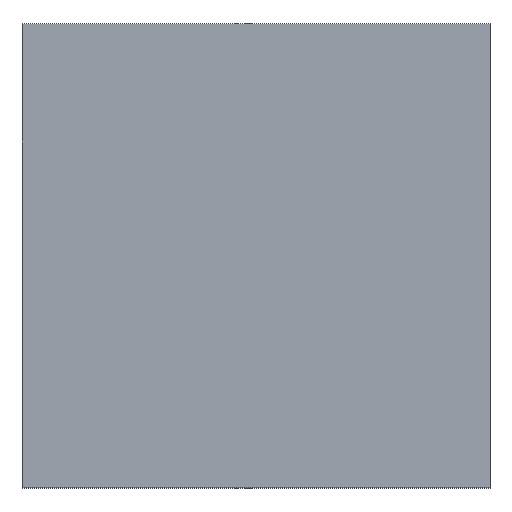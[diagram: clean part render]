
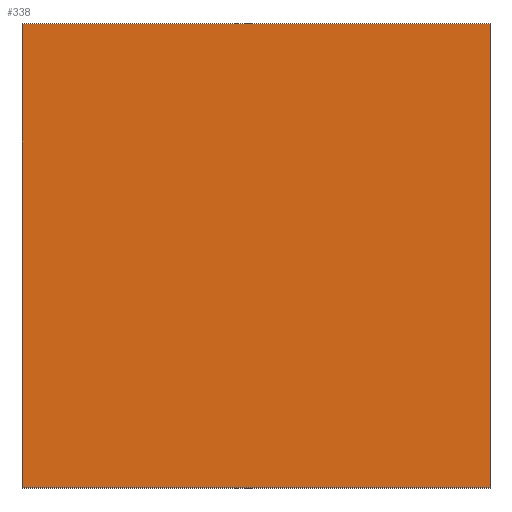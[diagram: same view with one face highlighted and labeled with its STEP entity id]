
A CAD part, top view. The second image highlights one B-rep face of the part: STEP entity #338.
In plain terms, the highlighted planar face has unit normal (0, 0, 1).
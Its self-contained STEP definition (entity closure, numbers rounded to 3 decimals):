
#24 = VERTEX_POINT('',#25);
#25 = CARTESIAN_POINT('',(-25.4,1.45,24.75));
#32 = PLANE('',#33);
#33 = AXIS2_PLACEMENT_3D('',#34,#35,#36);
#34 = CARTESIAN_POINT('',(-25.4,1.45,21.14));
#35 = DIRECTION('',(1.,0.,-0.));
#36 = DIRECTION('',(0.,0.,1.));
#44 = PLANE('',#45);
#45 = AXIS2_PLACEMENT_3D('',#46,#47,#48);
#46 = CARTESIAN_POINT('',(-25.4,1.45,21.14));
#47 = DIRECTION('',(-0.,1.,0.));
#48 = DIRECTION('',(0.,0.,1.));
#85 = VERTEX_POINT('',#86);
#86 = CARTESIAN_POINT('',(-25.4,5.7,24.75));
#100 = PLANE('',#101);
#101 = AXIS2_PLACEMENT_3D('',#102,#103,#104);
#102 = CARTESIAN_POINT('',(-25.4,5.7,21.14));
#103 = DIRECTION('',(-0.,1.,0.));
#104 = DIRECTION('',(0.,0.,1.));
#112 = EDGE_CURVE('',#24,#85,#113,.T.);
#113 = SURFACE_CURVE('',#114,(#118,#125),.PCURVE_S1.);
#114 = LINE('',#115,#116);
#115 = CARTESIAN_POINT('',(-25.4,1.45,24.75));
#116 = VECTOR('',#117,1.);
#117 = DIRECTION('',(-0.,1.,0.));
#118 = PCURVE('',#32,#119);
#119 = DEFINITIONAL_REPRESENTATION('',(#120),#124);
#120 = LINE('',#121,#122);
#121 = CARTESIAN_POINT('',(3.61,0.));
#122 = VECTOR('',#123,1.);
#123 = DIRECTION('',(0.,-1.));
#124 = ( GEOMETRIC_REPRESENTATION_CONTEXT(2) 
PARAMETRIC_REPRESENTATION_CONTEXT() REPRESENTATION_CONTEXT('2D SPACE',''
  ) );
#125 = PCURVE('',#126,#131);
#126 = PLANE('',#127);
#127 = AXIS2_PLACEMENT_3D('',#128,#129,#130);
#128 = CARTESIAN_POINT('',(-25.4,1.45,24.75));
#129 = DIRECTION('',(0.,0.,1.));
#130 = DIRECTION('',(1.,0.,-0.));
#131 = DEFINITIONAL_REPRESENTATION('',(#132),#136);
#132 = LINE('',#133,#134);
#133 = CARTESIAN_POINT('',(0.,0.));
#134 = VECTOR('',#135,1.);
#135 = DIRECTION('',(0.,1.));
#136 = ( GEOMETRIC_REPRESENTATION_CONTEXT(2) 
PARAMETRIC_REPRESENTATION_CONTEXT() REPRESENTATION_CONTEXT('2D SPACE',''
  ) );
#144 = VERTEX_POINT('',#145);
#145 = CARTESIAN_POINT('',(-21.11,1.45,24.75));
#152 = PLANE('',#153);
#153 = AXIS2_PLACEMENT_3D('',#154,#155,#156);
#154 = CARTESIAN_POINT('',(-21.11,1.45,21.14));
#155 = DIRECTION('',(1.,0.,-0.));
#156 = DIRECTION('',(0.,0.,1.));
#195 = VERTEX_POINT('',#196);
#196 = CARTESIAN_POINT('',(-21.11,5.7,24.75));
#217 = EDGE_CURVE('',#144,#195,#218,.T.);
#218 = SURFACE_CURVE('',#219,(#223,#230),.PCURVE_S1.);
#219 = LINE('',#220,#221);
#220 = CARTESIAN_POINT('',(-21.11,1.45,24.75));
#221 = VECTOR('',#222,1.);
#222 = DIRECTION('',(-0.,1.,0.));
#223 = PCURVE('',#152,#224);
#224 = DEFINITIONAL_REPRESENTATION('',(#225),#229);
#225 = LINE('',#226,#227);
#226 = CARTESIAN_POINT('',(3.61,0.));
#227 = VECTOR('',#228,1.);
#228 = DIRECTION('',(0.,-1.));
#229 = ( GEOMETRIC_REPRESENTATION_CONTEXT(2) 
PARAMETRIC_REPRESENTATION_CONTEXT() REPRESENTATION_CONTEXT('2D SPACE',''
  ) );
#230 = PCURVE('',#126,#231);
#231 = DEFINITIONAL_REPRESENTATION('',(#232),#236);
#232 = LINE('',#233,#234);
#233 = CARTESIAN_POINT('',(4.29,0.));
#234 = VECTOR('',#235,1.);
#235 = DIRECTION('',(0.,1.));
#236 = ( GEOMETRIC_REPRESENTATION_CONTEXT(2) 
PARAMETRIC_REPRESENTATION_CONTEXT() REPRESENTATION_CONTEXT('2D SPACE',''
  ) );
#263 = EDGE_CURVE('',#24,#144,#264,.T.);
#264 = SURFACE_CURVE('',#265,(#269,#276),.PCURVE_S1.);
#265 = LINE('',#266,#267);
#266 = CARTESIAN_POINT('',(-25.4,1.45,24.75));
#267 = VECTOR('',#268,1.);
#268 = DIRECTION('',(1.,0.,-0.));
#269 = PCURVE('',#44,#270);
#270 = DEFINITIONAL_REPRESENTATION('',(#271),#275);
#271 = LINE('',#272,#273);
#272 = CARTESIAN_POINT('',(3.61,0.));
#273 = VECTOR('',#274,1.);
#274 = DIRECTION('',(0.,1.));
#275 = ( GEOMETRIC_REPRESENTATION_CONTEXT(2) 
PARAMETRIC_REPRESENTATION_CONTEXT() REPRESENTATION_CONTEXT('2D SPACE',''
  ) );
#276 = PCURVE('',#126,#277);
#277 = DEFINITIONAL_REPRESENTATION('',(#278),#282);
#278 = LINE('',#279,#280);
#279 = CARTESIAN_POINT('',(0.,0.));
#280 = VECTOR('',#281,1.);
#281 = DIRECTION('',(1.,0.));
#282 = ( GEOMETRIC_REPRESENTATION_CONTEXT(2) 
PARAMETRIC_REPRESENTATION_CONTEXT() REPRESENTATION_CONTEXT('2D SPACE',''
  ) );
#310 = EDGE_CURVE('',#85,#195,#311,.T.);
#311 = SURFACE_CURVE('',#312,(#316,#323),.PCURVE_S1.);
#312 = LINE('',#313,#314);
#313 = CARTESIAN_POINT('',(-25.4,5.7,24.75));
#314 = VECTOR('',#315,1.);
#315 = DIRECTION('',(1.,0.,-0.));
#316 = PCURVE('',#100,#317);
#317 = DEFINITIONAL_REPRESENTATION('',(#318),#322);
#318 = LINE('',#319,#320);
#319 = CARTESIAN_POINT('',(3.61,0.));
#320 = VECTOR('',#321,1.);
#321 = DIRECTION('',(0.,1.));
#322 = ( GEOMETRIC_REPRESENTATION_CONTEXT(2) 
PARAMETRIC_REPRESENTATION_CONTEXT() REPRESENTATION_CONTEXT('2D SPACE',''
  ) );
#323 = PCURVE('',#126,#324);
#324 = DEFINITIONAL_REPRESENTATION('',(#325),#329);
#325 = LINE('',#326,#327);
#326 = CARTESIAN_POINT('',(0.,4.25));
#327 = VECTOR('',#328,1.);
#328 = DIRECTION('',(1.,0.));
#329 = ( GEOMETRIC_REPRESENTATION_CONTEXT(2) 
PARAMETRIC_REPRESENTATION_CONTEXT() REPRESENTATION_CONTEXT('2D SPACE',''
  ) );
#338 = ADVANCED_FACE('',(#339),#126,.T.);
#339 = FACE_BOUND('',#340,.T.);
#340 = EDGE_LOOP('',(#341,#342,#343,#344));
#341 = ORIENTED_EDGE('',*,*,#112,.F.);
#342 = ORIENTED_EDGE('',*,*,#263,.T.);
#343 = ORIENTED_EDGE('',*,*,#217,.T.);
#344 = ORIENTED_EDGE('',*,*,#310,.F.);
